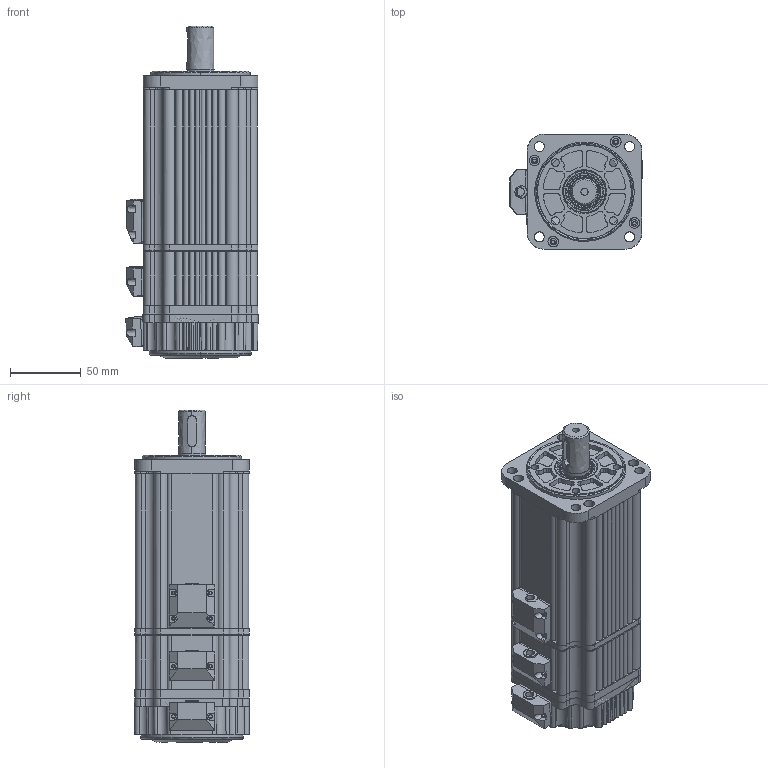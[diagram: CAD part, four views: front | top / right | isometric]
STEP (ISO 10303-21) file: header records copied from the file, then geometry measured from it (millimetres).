
FILE_DESCRIPTION (( 'STEP AP203' ), '1' );
FILE_NAME ('EMJ-10(APB,AFB,AFD,DFD)（with holding brake）.STEP', '2020-03-30T02:26:40', ( '' ), ( '' ), 'SwSTEP 2.0', 'SolidWorks 2018', '' );
FILE_SCHEMA (( 'CONFIG_CONTROL_DESIGN' ));
Length unit declared in the file: millimetre
Products named in the file (1): EMJ-10(APB,AFB,AFD,DFD)（with holding brake）
Bounding box: 93.15 x 81.2 x 234 mm (x, y, z)
Surface area: 101287.6 mm2 (no closed solid volume)
Topology: 0 solids, 10 shells, 749 faces, 2367 edges, 1616 vertices
Faces by surface type: bspline 749
Entity records: 31338 total; most frequent: CARTESIAN_POINT 18811, ORIENTED_EDGE 4101, EDGE_CURVE 2363, B_SPLINE_CURVE_WITH_KNOTS 1648, VERTEX_POINT 1616, EDGE_LOOP 864, FACE_OUTER_BOUND 749, ADVANCED_FACE 749
